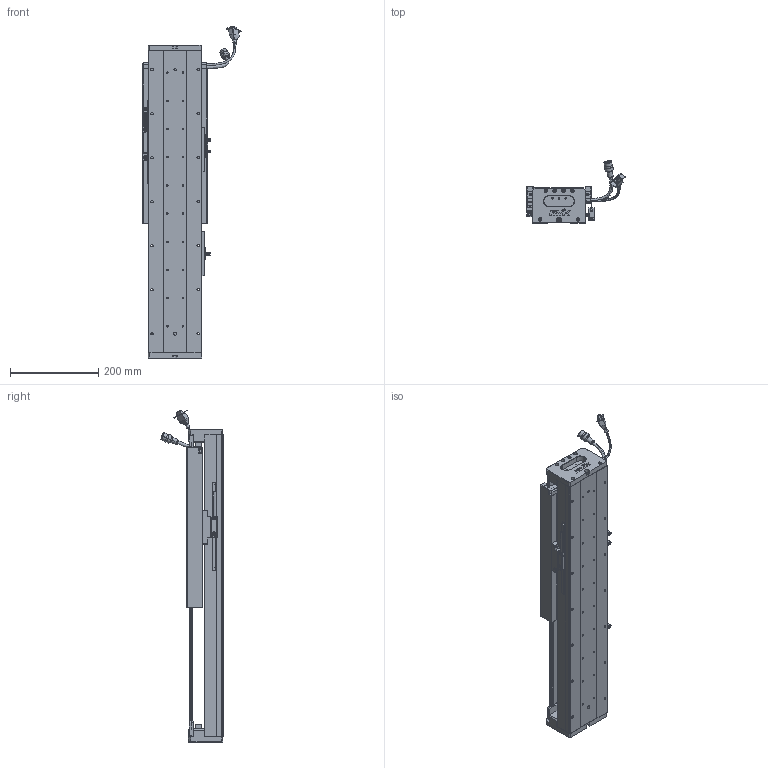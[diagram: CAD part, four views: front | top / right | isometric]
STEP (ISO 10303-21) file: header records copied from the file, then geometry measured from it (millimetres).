
FILE_DESCRIPTION (( 'STEP AP203' ), '1' );
FILE_NAME ('Z5-RY120D-1-L500-B-K.SLDASM_0250.step', '2021-05-17T06:20:59', ( '盈信电脑' ), ( '东莞市道滘镇水果街19号' ), 'SwSTEP 2.0', 'SolidWorks 2016', '' );
FILE_SCHEMA (( 'CONFIG_CONTROL_DESIGN' ));
Length unit declared in the file: millimetre
Products named in the file (37): 120-Z-臏賑輸盄裔(21遴); SCALE; 080黍杅芛假蚾釱21遴; 140蚥薯蝶輸; Z-RY120D詩湍狟揤裔; RY100FB-遵嫖萇覜茼え; SEAL-Part-1; PBU_SHEET; SCREW-M1.7-1; SHIELDPLATE; 覜茼ん672; 672嫖萇羲壽假蚾釱; LABEL; SCREW-M1.6-2; Z5-RY120D-1-L500-B-K.SLDASM_0250; COVER-Part-1; HARNESS-Part-2; Z5-RY120铝滑块（21款）; 140雄赽晤鎢ん堤盄; Z5-RY120-500-倰第菁釱_0250; SCREW-M1.6-3; SCREW-M1.7; SCALE-Part-2; Z-RY120D詩湍奻揤裔; LABEL-Part-1; SCREW-M1.6-1; HARNESS; SEAL; SCALE-Part-1; PSLH080_PSLF2; COVER; Z-120詩湍傷裔啣; Z5-RY120-L500詩湍100mm遵_0250; HOLDER0; 榋妏寠巭燃_暯_M2_2; SCREW-M1.6; HARNESS-Part-1
Assembly tree (43 placements, depth 4):
  Z5-RY120D-1-L500-B-K.SLDASM_0250
    Z5-RY120-500-倰第菁釱_0250
    覜茼ん672  x3
    672嫖萇羲壽假蚾釱  x2
    Z5-RY120铝滑块（21款）
    PSLH080_PSLF2
      SCALE
        SCALE-Part-1
        SCALE-Part-2
      HARNESS
        HARNESS-Part-1
        HARNESS-Part-2
      LABEL
        LABEL-Part-1
      COVER
        COVER-Part-1
      SEAL
        SEAL-Part-1
      榋妏寠巭燃_暯_M2_2
      SHIELDPLATE
      SCREW-M1.7
      SCREW-M1.7-1
      PBU_SHEET
      SCREW-M1.6
      SCREW-M1.6-1
      SCREW-M1.6-2
      SCREW-M1.6-3
      HOLDER0
    080黍杅芛假蚾釱21遴
    120-Z-臏賑輸盄裔(21遴)
    140雄赽晤鎢ん堤盄
    140蚥薯蝶輸  x2
    RY100FB-遵嫖萇覜茼え
    Z-120詩湍傷裔啣  x2
    Z-RY120D詩湍奻揤裔  x2
    Z-RY120D詩湍狟揤裔  x2
    Z5-RY120-L500詩湍100mm遵_0250
Bounding box: 222.88 x 140.94 x 754 mm (x, y, z)
Volume: 2754247.7 mm3; surface area: 836722.1 mm2
Topology: 38 solids, 38 shells, 2689 faces, 7143 edges, 4516 vertices
Faces by surface type: cylinder 1203, plane 1106, cone 258, torus 69, bspline 53
Entity records: 78280 total; most frequent: CARTESIAN_POINT 19757, DIRECTION 11405, ORIENTED_EDGE 11294, EDGE_CURVE 5647, AXIS2_PLACEMENT_3D 4182, VERTEX_POINT 3636, VECTOR 3041, LINE 3041
